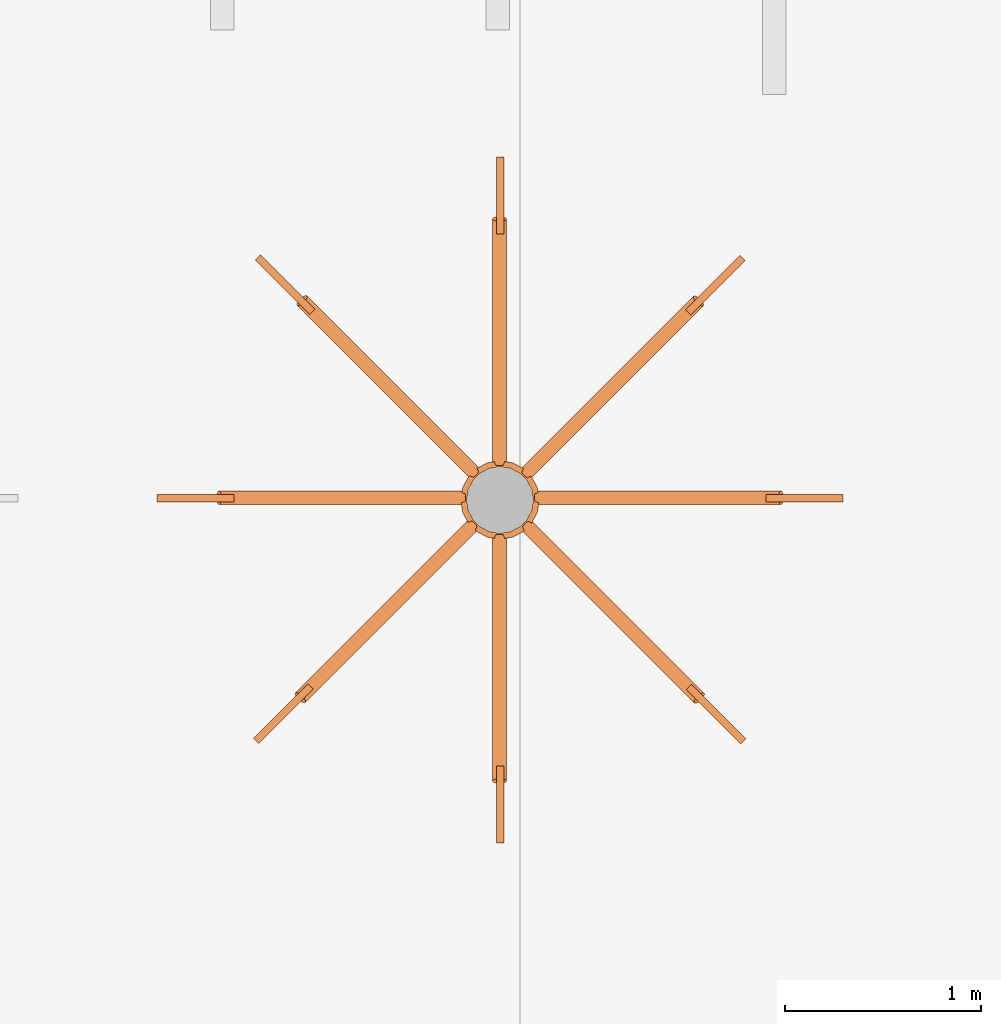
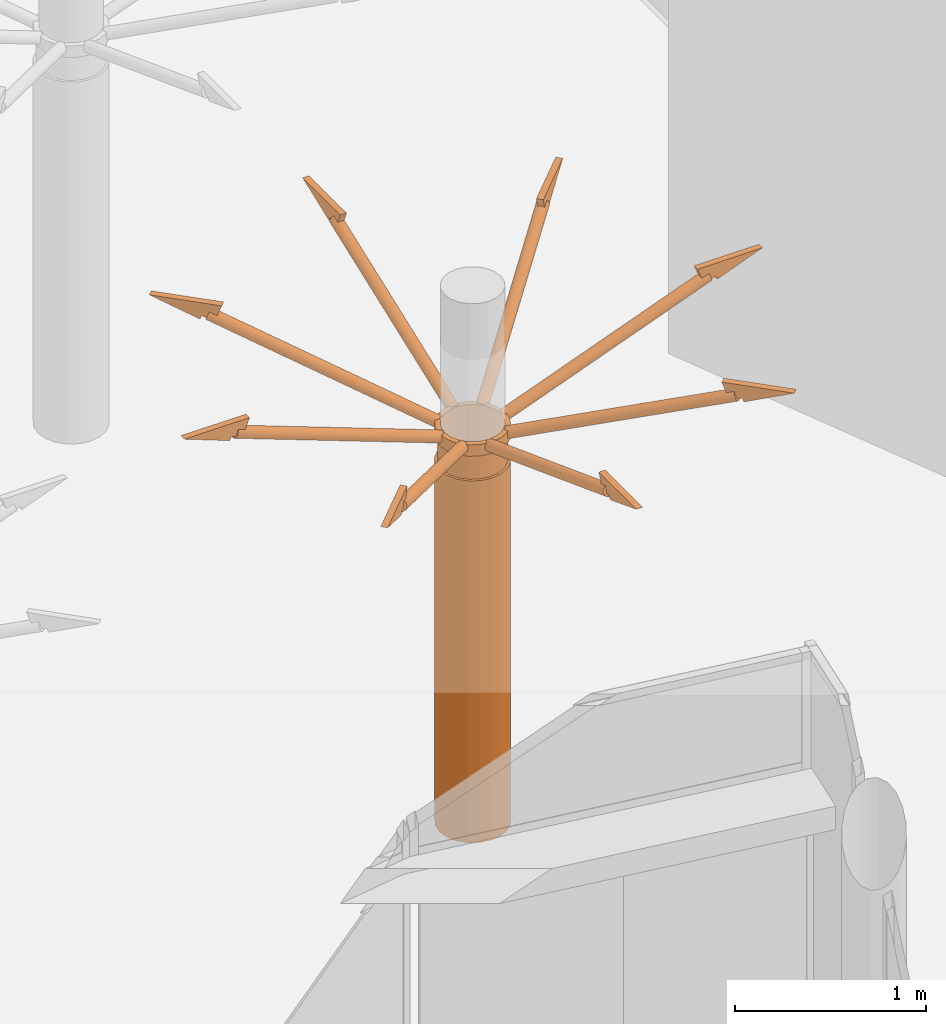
# One storey, part 62 of 65: 1 proxy.
"""IFC4 building model written with IfcOpenShell, lengths in metres."""

from ifc_helpers import new_model, entity, si_unit, converted_unit, derived_unit, direction, frame, origin, place, context, subcontext, project, spatial, indexed_curve, outline, extrude, source, transform, mapped, material, constituent, constituent_set, type_object, type_shapes, element, save


model = new_model("IFC4")

# Units and contexts
model_context = context("Model", 3, precision=1e-05, world=origin(), true_north=direction((6.12303176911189e-17, 1.0)))
body_context = subcontext(model_context, "Body", "Model", "MODEL_VIEW")
ifc_project = project(units=[si_unit("LENGTHUNIT", "METRE"), si_unit("AREAUNIT", "SQUARE_METRE"), si_unit("VOLUMEUNIT", "CUBIC_METRE"), converted_unit("PLANEANGLEUNIT", "DEGREE", entity("IfcRatioMeasure", 0.0174532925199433), si_unit("PLANEANGLEUNIT", "RADIAN"), dimensions=[0, 0, 0, 0, 0, 0, 0]), si_unit("MASSUNIT", "GRAM", prefix="KILO"), derived_unit("MASSDENSITYUNIT", [(si_unit("MASSUNIT", "GRAM", prefix="KILO"), 1), (si_unit("LENGTHUNIT", "METRE"), -3)]), derived_unit("MOMENTOFINERTIAUNIT", [(si_unit("LENGTHUNIT", "METRE"), 4)]), si_unit("TIMEUNIT", "SECOND"), si_unit("FREQUENCYUNIT", "HERTZ"), si_unit("THERMODYNAMICTEMPERATUREUNIT", "DEGREE_CELSIUS"), derived_unit("THERMALTRANSMITTANCEUNIT", [(si_unit("MASSUNIT", "GRAM", prefix="KILO"), 1), (si_unit("THERMODYNAMICTEMPERATUREUNIT", "KELVIN"), -1), (si_unit("TIMEUNIT", "SECOND"), -3)]), derived_unit("VOLUMETRICFLOWRATEUNIT", [(si_unit("LENGTHUNIT", "METRE"), 3), (si_unit("TIMEUNIT", "SECOND"), -1)]), si_unit("ELECTRICCURRENTUNIT", "AMPERE"), si_unit("ELECTRICVOLTAGEUNIT", "VOLT"), si_unit("POWERUNIT", "WATT"), si_unit("FORCEUNIT", "NEWTON", prefix="KILO"), si_unit("ILLUMINANCEUNIT", "LUX"), si_unit("LUMINOUSFLUXUNIT", "LUMEN"), si_unit("LUMINOUSINTENSITYUNIT", "CANDELA"), derived_unit("USERDEFINED", [(si_unit("MASSUNIT", "GRAM", prefix="KILO"), -1), (si_unit("LENGTHUNIT", "METRE"), -2), (si_unit("TIMEUNIT", "SECOND"), 3), (si_unit("LUMINOUSFLUXUNIT", "LUMEN"), 1)]), derived_unit("LINEARVELOCITYUNIT", [(si_unit("LENGTHUNIT", "METRE"), 1), (si_unit("TIMEUNIT", "SECOND"), -1)]), si_unit("PRESSUREUNIT", "PASCAL"), derived_unit("USERDEFINED", [(si_unit("LENGTHUNIT", "METRE"), -2), (si_unit("MASSUNIT", "GRAM", prefix="KILO"), 1), (si_unit("TIMEUNIT", "SECOND"), -2)]), derived_unit("LINEARFORCEUNIT", [(si_unit("MASSUNIT", "GRAM", prefix="KILO"), 1), (si_unit("LENGTHUNIT", "METRE"), 1), (si_unit("TIMEUNIT", "SECOND"), -2), (si_unit("LENGTHUNIT", "METRE"), -1)]), derived_unit("PLANARFORCEUNIT", [(si_unit("MASSUNIT", "GRAM", prefix="KILO"), 1), (si_unit("LENGTHUNIT", "METRE"), 1), (si_unit("TIMEUNIT", "SECOND"), -2), (si_unit("LENGTHUNIT", "METRE"), -2)])], contexts=[model_context])

# Site, building, storey
site_placement = place(None, origin())
site = spatial("IfcSite", under=ifc_project, at=site_placement, Name="Default", CompositionType="ELEMENT")
building_placement = place(site_placement, origin())
building = spatial("IfcBuilding", under=site, at=building_placement, Name="HOTEL CONSULAIRE BOULOGNE SUR MER", CompositionType="ELEMENT")
storey_placement = place(building_placement, origin())
storey = spatial("IfcBuildingStorey", under=building, at=storey_placement, Name="Niveau 0", CompositionType="ELEMENT", Elevation=1.31981936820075e-13)

# Proxy
ifc_material_1 = material(Name="Bronze", Category="Métal")
ifc_constituent_1 = constituent(ifc_material_1, Name="Bronze", Category="Matériaux")
ifc_material_2 = material(Name="Acier, carbone", Category="Métal")
ifc_constituent_2 = constituent(ifc_material_2, Name="Acier, carbone", Category="Matériaux")
ifc_constituent_set = constituent_set(constituents=[ifc_constituent_1, ifc_constituent_2], Name="MaterialConstituentSet")
building_element_proxy_type = type_object("IfcBuildingElementProxyType", Name="Modèles génériques 3:Modèles génériques 1", PredefinedType="NOTDEFINED", material=ifc_material_1)
shared_shape = source(origin(), body_context, "Body", "SweptSolid", [
    extrude(outline(indexed_curve([(-0.277248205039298, -0.059776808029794), (0.115160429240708, -0.059776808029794), (0.0851913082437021, 0.0182954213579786), (0.0431801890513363, 0.00216886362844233), (0.0317934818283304, 0.0318322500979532), (0.00544099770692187, 0.0219587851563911), (-0.00351820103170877, 0.0452982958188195), (-0.277248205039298, -0.059776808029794)], self_intersect=False)), frame((0.713250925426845, 0.701500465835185, 2.99602341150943), z_axis=(-0.70710678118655, 0.707106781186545, 0.0), x_axis=(0.707106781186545, 0.70710678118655, 0.0)), (0.0, 0.0, 1.0), 0.03781952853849),
    extrude(outline(indexed_curve([(0.035, -1.04985600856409e-15), (0.0332869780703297, 0.0108155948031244), (0.028315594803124, 0.0205724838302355), (0.0205724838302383, 0.0283155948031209), (0.0108155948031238, 0.0332869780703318), (1.1197790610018e-15, 0.0350000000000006), (-0.0108155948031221, 0.0332869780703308), (-0.0205724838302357, 0.028315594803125), (-0.0283155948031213, 0.0205724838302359), (-0.0332869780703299, 0.0108155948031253), (-0.0349999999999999, 1.43372394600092e-15), (-0.0332869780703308, -0.0108155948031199), (-0.028315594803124, -0.0205724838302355), (-0.0205724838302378, -0.0283155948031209), (-0.0108155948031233, -0.0332869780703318), (-6.12763902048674e-16, -0.0350000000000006), (0.0108155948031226, -0.0332869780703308), (0.0205724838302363, -0.0283155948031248), (0.0283155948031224, -0.0205724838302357), (0.0332869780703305, -0.0108155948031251), (0.035, -1.04985600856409e-15)], self_intersect=False)), frame((0.728885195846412, 0.739260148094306, 2.98010318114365), z_axis=(0.662156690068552, 0.662156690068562, -0.350851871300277), x_axis=(-0.248089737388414, -0.248089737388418, -0.936430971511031)), (0.0, 0.0, 1.0), 1.32737404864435),
    extrude(outline(indexed_curve([(-0.280255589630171, -0.0435504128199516), (0.0129489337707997, -0.0435504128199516), (0.0129489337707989, -0.0185504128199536), (0.0410894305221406, -0.018324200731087), (0.0410894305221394, 0.0134495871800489), (0.0860894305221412, 0.013449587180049), (0.0860894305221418, 0.0970762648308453), (-0.280255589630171, -0.0435504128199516)], self_intersect=False)), frame((1.7274101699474, 0.277248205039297, 2.99602341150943), z_axis=(1.0, 0.0, 0.0), x_axis=(0.0, 0.933580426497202, -0.358367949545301)), (0.0, 0.0, 1.0), 0.0378195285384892),
    extrude(outline(indexed_curve([(0.0349999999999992, 8.67182975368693e-17), (0.0332869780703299, 0.0108155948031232), (0.0283155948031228, 0.0205724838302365), (0.0205724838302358, 0.0283155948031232), (0.0108155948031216, 0.0332869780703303), (-5.93728164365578e-16, 0.035), (-0.0108155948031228, 0.0332869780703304), (-0.0205724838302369, 0.0283155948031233), (-0.0283155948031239, 0.0205724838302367), (-0.0332869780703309, 0.0108155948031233), (-0.0349999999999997, 1.83998484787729e-16), (-0.0332869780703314, -0.0108155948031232), (-0.0283155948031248, -0.0205724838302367), (-0.0205724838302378, -0.0283155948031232), (-0.0108155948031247, -0.0332869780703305), (-9.27317312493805e-16, -0.0349999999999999), (0.0108155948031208, -0.0332869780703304), (0.0205724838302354, -0.0283155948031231), (0.0283155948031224, -0.0205724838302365), (0.0332869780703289, -0.010815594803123), (0.0349999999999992, 8.67182975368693e-17)], self_intersect=False)), frame((1.74305519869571, 1.5579976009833, 2.51439151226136), z_axis=(0.0, -0.936430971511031, 0.350851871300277), x_axis=(0.0, -0.350851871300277, -0.936430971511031)), (0.0, 0.0, 1.0), 1.32737404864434),
    extrude(outline(indexed_curve([(-0.280255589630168, -0.0435504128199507), (0.0129489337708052, -0.0435504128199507), (0.0129489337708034, -0.0185504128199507), (0.0410894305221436, -0.0183242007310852), (0.0410894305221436, 0.0134495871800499), (0.0860894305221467, 0.0134495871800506), (0.0860894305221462, 0.097076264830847), (-0.280255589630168, -0.0435504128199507)], self_intersect=False)), frame((2.77607438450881, 0.699368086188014, 2.99602341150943), z_axis=(0.707106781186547, 0.707106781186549, 0.0), x_axis=(-0.6601410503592, 0.660141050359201, -0.358367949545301)), (0.0, 0.0, 1.0), 0.03781952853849),
    extrude(outline(indexed_curve([(0.035, -1.04985600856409e-15), (0.033286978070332, 0.0108155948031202), (0.028315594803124, 0.0205724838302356), (0.0205724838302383, 0.028315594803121), (0.0108155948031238, 0.0332869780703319), (1.186400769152e-15, 0.0350000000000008), (-0.0108155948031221, 0.033286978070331), (-0.0205724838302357, 0.028315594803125), (-0.0283155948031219, 0.0205724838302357), (-0.0332869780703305, 0.0108155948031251), (-0.0349999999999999, 1.43372394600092e-15), (-0.0332869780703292, -0.0108155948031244), (-0.0283155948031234, -0.0205724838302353), (-0.0205724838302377, -0.0283155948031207), (-0.0108155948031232, -0.0332869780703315), (-5.45084706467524e-16, -0.0350000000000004), (0.0108155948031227, -0.0332869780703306), (0.0205724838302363, -0.0283155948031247), (0.0283155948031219, -0.0205724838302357), (0.0332869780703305, -0.0108155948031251), (0.035, -1.04985600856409e-15)], self_intersect=False)), frame((1.88151050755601, 1.61605737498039, 2.51439151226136), z_axis=(0.662156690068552, -0.662156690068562, 0.350851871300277), x_axis=(0.248089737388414, -0.248089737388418, -0.936430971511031)), (0.0, 0.0, 1.0), 1.32737404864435),
    extrude(outline(indexed_curve([(-0.277248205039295, -0.0597768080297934), (0.115160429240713, -0.0597768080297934), (0.0851913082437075, 0.0182954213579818), (0.0431801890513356, 0.00216886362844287), (0.031793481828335, 0.0318322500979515), (0.00544099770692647, 0.02195878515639), (-0.00351820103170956, 0.0452982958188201), (-0.277248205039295, -0.0597768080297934)], self_intersect=False)), frame((2.77184292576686, 2.7963210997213, 2.99602341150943), z_axis=(0.707106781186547, -0.707106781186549, 0.0), x_axis=(-0.707106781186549, -0.707106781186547, 0.0)), (0.0, 0.0, 1.0), 0.0378195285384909),
    extrude(outline(indexed_curve([(0.035, 1.16429366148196e-15), (0.03328697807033, 0.0108155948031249), (0.0283155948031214, 0.0205724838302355), (0.0205724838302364, 0.0283155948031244), (0.0108155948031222, 0.0332869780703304), (-1.00451293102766e-15, 0.0350000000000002), (-0.0108155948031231, 0.0332869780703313), (-0.0205724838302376, 0.0283155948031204), (-0.0283155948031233, 0.0205724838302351), (-0.0332869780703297, 0.0108155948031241), (-0.0349999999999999, -1.26052501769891e-15), (-0.03328697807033, -0.0108155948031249), (-0.028315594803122, -0.0205724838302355), (-0.0205724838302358, -0.0283155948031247), (-0.0108155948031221, -0.0332869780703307), (1.10497423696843e-15, -0.0350000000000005), (0.0108155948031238, -0.0332869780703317), (0.0205724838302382, -0.0283155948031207), (0.0283155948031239, -0.0205724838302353), (0.0332869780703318, -0.0108155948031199), (0.035, 1.16429366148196e-15)], self_intersect=False)), frame((1.87727904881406, 1.87963181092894, 2.51439151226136), z_axis=(0.662156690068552, 0.662156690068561, 0.350851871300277), x_axis=(0.248089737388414, 0.248089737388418, -0.936430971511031)), (0.0, 0.0, 1.0), 1.32737404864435),
    extrude(outline(indexed_curve([(-0.277248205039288, -0.0597768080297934), (0.115160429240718, -0.0597768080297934), (0.0851913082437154, 0.0182954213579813), (0.0431801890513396, 0.00216886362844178), (0.0317934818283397, 0.0318322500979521), (0.0054409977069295, 0.0219587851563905), (-0.00351820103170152, 0.045298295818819), (-0.277248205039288, -0.0597768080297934)], self_intersect=False)), frame((1.72741016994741, 3.21418715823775, 2.99602341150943), z_axis=(1.0, 0.0, 0.0), x_axis=(0.0, -1.0, 0.0)), (0.0, 0.0, 1.0), 0.0378195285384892),
    extrude(outline(indexed_curve([(0.0349999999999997, -6.68832189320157e-17), (0.0332869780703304, 0.010815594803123), (0.0283155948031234, 0.0205724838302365), (0.0205724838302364, 0.0283155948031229), (0.0108155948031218, 0.0332869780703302), (6.68779268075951e-17, 0.0349999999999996), (-0.0108155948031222, 0.0332869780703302), (-0.0205724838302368, 0.0283155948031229), (-0.0283155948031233, 0.0205724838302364), (-0.0332869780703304, 0.0108155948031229), (-0.0349999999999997, -2.03833563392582e-16), (-0.0332869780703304, -0.0108155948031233), (-0.0283155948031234, -0.0205724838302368), (-0.0205724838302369, -0.0283155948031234), (-0.0108155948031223, -0.0332869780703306), (-6.68779268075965e-17, -0.0350000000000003), (0.0108155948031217, -0.0332869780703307), (0.0205724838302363, -0.0283155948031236), (0.0283155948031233, -0.0205724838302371), (0.0332869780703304, -0.0108155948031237), (0.0349999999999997, -6.68832189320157e-17)], self_intersect=False)), frame((1.74305519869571, 1.93343776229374, 2.51439151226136), z_axis=(0.0, 0.936430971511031, 0.350851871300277), x_axis=(0.0, 0.350851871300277, -0.936430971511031)), (0.0, 0.0, 1.0), 1.32737404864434),
    extrude(outline(indexed_curve([(-0.277248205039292, -0.059776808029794), (0.115160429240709, -0.059776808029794), (0.0851913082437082, 0.0182954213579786), (0.0431801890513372, 0.00216886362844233), (0.0317934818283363, 0.0318322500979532), (0.005440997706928, 0.0219587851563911), (-0.00351820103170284, 0.0452982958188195), (-0.277248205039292, -0.059776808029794)], self_intersect=False)), frame((0.694971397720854, 2.77170009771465, 2.99602341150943), z_axis=(0.707106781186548, 0.707106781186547, 0.0), x_axis=(0.707106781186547, -0.707106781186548, 0.0)), (0.0, 0.0, 1.0), 0.0378195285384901),
    extrude(outline(indexed_curve([(0.0349999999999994, -1.22011148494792e-15), (0.0332869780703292, 0.0108155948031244), (0.028315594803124, 0.0205724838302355), (0.0205724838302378, 0.0283155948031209), (0.0108155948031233, 0.0332869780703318), (5.94786615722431e-16, 0.0350000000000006), (-0.0108155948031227, 0.0332869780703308), (-0.0205724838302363, 0.0283155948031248), (-0.0283155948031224, 0.0205724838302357), (-0.0332869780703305, 0.0108155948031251), (-0.0350000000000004, 1.22011148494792e-15), (-0.0332869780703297, -0.0108155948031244), (-0.0283155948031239, -0.0205724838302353), (-0.0205724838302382, -0.0283155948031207), (-0.0108155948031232, -0.0332869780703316), (-1.10180177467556e-15, -0.0350000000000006), (0.0108155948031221, -0.0332869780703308), (0.0205724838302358, -0.0283155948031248), (0.0283155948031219, -0.0205724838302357), (0.03328697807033, -0.0108155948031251), (0.0349999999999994, -1.22011148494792e-15)], self_intersect=False)), frame((1.6162777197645, 1.88175325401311, 2.51439151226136), z_axis=(-0.662156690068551, 0.662156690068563, 0.350851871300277), x_axis=(-0.248089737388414, 0.248089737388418, -0.936430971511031)), (0.0, 0.0, 1.0), 1.32737404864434),
    extrude(outline(indexed_curve([(-0.280255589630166, -0.0435504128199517), (0.0129489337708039, -0.0435504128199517), (0.0129489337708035, -0.0185504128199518), (0.0410894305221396, -0.0183242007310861), (0.0410894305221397, 0.0134495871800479), (0.08608943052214, 0.0134495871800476), (0.0860894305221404, 0.0970762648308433), (-0.280255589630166, -0.0435504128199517)], self_intersect=False)), frame((3.21418736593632, 1.73554318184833, 2.99602341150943), z_axis=(0.0, 1.0, 0.0), x_axis=(-0.933580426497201, 0.0, -0.358367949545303)), (0.0, 0.0, 1.0), 0.0378195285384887),
    extrude(outline(indexed_curve([(0.0349999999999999, -4.16541532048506e-17), (0.0332869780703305, 0.0108155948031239), (0.0283155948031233, 0.0205724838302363), (0.0205724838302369, 0.0283155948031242), (0.0108155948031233, 0.0332869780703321), (-5.83659163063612e-18, 0.0350000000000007), (-0.0108155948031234, 0.0332869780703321), (-0.0205724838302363, 0.0283155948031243), (-0.0283155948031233, 0.0205724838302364), (-0.0332869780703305, 0.0108155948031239), (-0.0349999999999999, 4.16541532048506e-17), (-0.0332869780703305, -0.0108155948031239), (-0.0283155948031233, -0.0205724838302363), (-0.0205724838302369, -0.0283155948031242), (-0.0108155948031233, -0.0332869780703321), (5.83659163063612e-18, -0.0350000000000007), (0.0108155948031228, -0.0332869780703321), (0.0205724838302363, -0.0283155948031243), (0.0283155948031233, -0.0205724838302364), (0.0332869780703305, -0.0108155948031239), (0.0349999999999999, -4.16541532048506e-17)], self_intersect=False)), frame((1.93343796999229, 1.75771768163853, 2.51439151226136), z_axis=(0.936430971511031, 0.0, 0.350851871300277), x_axis=(0.350851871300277, 0.0, -0.936430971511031)), (0.0, 0.0, 1.0), 1.32737404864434),
    extrude(outline(indexed_curve([(-0.277248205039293, -0.059776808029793), (0.115160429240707, -0.059776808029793), (0.0851913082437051, 0.0182954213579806), (0.0431801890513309, 0.00216886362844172), (0.0317934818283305, 0.0318322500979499), (0.00544099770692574, 0.0219587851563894), (-0.00351820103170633, 0.0452982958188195), (-0.277248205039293, -0.059776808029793)], self_intersect=False)), frame((0.277248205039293, 1.73554318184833, 2.99602341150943), z_axis=(0.0, 1.0, 0.0), x_axis=(1.0, 0.0, 0.0)), (0.0, 0.0, 1.0), 0.0378195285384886),
    extrude(outline(indexed_curve([(0.0349999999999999, 4.16541532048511e-17), (0.0332869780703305, 0.0108155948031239), (0.0283155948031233, 0.0205724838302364), (0.0205724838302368, 0.0283155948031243), (0.0108155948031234, 0.0332869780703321), (5.33273364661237e-17, 0.0350000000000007), (-0.0108155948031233, 0.0332869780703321), (-0.0205724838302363, 0.0283155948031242), (-0.0283155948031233, 0.0205724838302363), (-0.0332869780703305, 0.0108155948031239), (-0.0349999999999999, -4.16541532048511e-17), (-0.0332869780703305, -0.0108155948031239), (-0.0283155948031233, -0.0205724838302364), (-0.0205724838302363, -0.0283155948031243), (-0.0108155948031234, -0.0332869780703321), (4.16541532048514e-17, -0.0350000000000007), (0.0108155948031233, -0.0332869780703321), (0.0205724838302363, -0.0283155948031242), (0.0283155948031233, -0.0205724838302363), (0.0332869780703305, -0.0108155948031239), (0.0349999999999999, 4.16541532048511e-17)], self_intersect=False)), frame((1.55799760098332, 1.75771768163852, 2.51439151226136), z_axis=(-0.936430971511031, 0.0, 0.350851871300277), x_axis=(-0.350851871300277, 0.0, -0.936430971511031)), (0.0, 0.0, 1.0), 1.32737404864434),
    extrude(outline(indexed_curve([(0.199999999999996, 0.0), (0.190211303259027, 0.0618033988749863), (0.161803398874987, 0.11755705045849), (0.117557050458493, 0.161803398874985), (0.0618033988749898, 0.190211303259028), (2.16573425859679e-15, 0.199999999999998), (-0.0618033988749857, 0.190211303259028), (-0.11755705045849, 0.16180339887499), (-0.161803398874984, 0.117557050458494), (-0.190211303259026, 0.0618033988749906), (-0.199999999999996, 4.33146851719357e-15), (-0.190211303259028, -0.0618033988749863), (-0.161803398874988, -0.11755705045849), (-0.117557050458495, -0.161803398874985), (-0.0618033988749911, -0.190211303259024), (-2.97788460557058e-15, -0.199999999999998), (0.0618033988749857, -0.190211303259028), (0.11755705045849, -0.161803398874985), (0.161803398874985, -0.117557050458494), (0.190211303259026, -0.0618033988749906), (0.199999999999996, 0.0)], self_intersect=False), holes=[indexed_curve([(-0.169999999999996, 0.0), (-0.161679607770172, 0.0525328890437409), (-0.137532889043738, 0.0999234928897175), (-0.0999234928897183, 0.137532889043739), (-0.0525328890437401, 0.161679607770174), (-5.41433564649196e-16, 0.169999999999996), (0.0525328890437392, 0.161679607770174), (0.0999234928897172, 0.137532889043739), (0.137532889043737, 0.0999234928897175), (0.161679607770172, 0.0525328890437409), (0.169999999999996, 0.0), (0.161679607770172, -0.0525328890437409), (0.137532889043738, -0.0999234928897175), (0.0999234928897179, -0.137532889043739), (0.0525328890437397, -0.161679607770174), (0.0, -0.169999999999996), (-0.0525328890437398, -0.161679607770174), (-0.0999234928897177, -0.137532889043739), (-0.137532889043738, -0.0999234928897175), (-0.161679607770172, -0.0525328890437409), (-0.169999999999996, 0.0)], self_intersect=False)]), frame((1.74571778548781, 1.74571768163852, 2.46815840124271)), (0.0, 0.0, 1.0), 0.073394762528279),
    extrude(outline(indexed_curve([(-0.184999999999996, 0.0), (-0.175945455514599, -0.0571681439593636), (-0.149668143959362, -0.108740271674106), (-0.108740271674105, -0.14966814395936), (-0.0571681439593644, -0.175945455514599), (-8.12150346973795e-16, -0.184999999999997), (0.0571681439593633, -0.175945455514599), (0.108740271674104, -0.149668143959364), (0.149668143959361, -0.108740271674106), (0.175945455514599, -0.0571681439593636), (0.184999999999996, 0.0), (0.175945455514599, 0.0571681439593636), (0.149668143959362, 0.108740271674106), (0.108740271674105, 0.14966814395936), (0.057168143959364, 0.175945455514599), (0.0, 0.184999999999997), (-0.0571681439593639, 0.175945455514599), (-0.108740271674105, 0.14966814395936), (-0.149668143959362, 0.108740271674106), (-0.175945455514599, 0.0571681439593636), (-0.184999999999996, 0.0)], self_intersect=False), holes=[indexed_curve([(0.169999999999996, 0.0), (0.161679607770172, -0.0525328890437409), (0.137532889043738, -0.0999234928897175), (0.0999234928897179, -0.137532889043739), (0.0525328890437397, -0.161679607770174), (0.0, -0.169999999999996), (-0.0525328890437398, -0.161679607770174), (-0.0999234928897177, -0.137532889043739), (-0.137532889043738, -0.0999234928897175), (-0.161679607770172, -0.0525328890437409), (-0.169999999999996, 0.0), (-0.161679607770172, 0.0525328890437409), (-0.137532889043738, 0.0999234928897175), (-0.0999234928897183, 0.137532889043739), (-0.0525328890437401, 0.161679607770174), (-5.41433564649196e-16, 0.169999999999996), (0.0525328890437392, 0.161679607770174), (0.0999234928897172, 0.137532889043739), (0.137532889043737, 0.0999234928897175), (0.161679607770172, 0.0525328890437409), (0.169999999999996, 0.0)], self_intersect=False)]), frame((1.74571778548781, 1.74571768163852, 2.31091744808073)), (0.0, 0.0, 1.0), 0.15724095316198),
    extrude(outline(indexed_curve([(0.199999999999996, 0.0), (0.190211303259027, 0.0618033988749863), (0.161803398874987, 0.11755705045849), (0.117557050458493, 0.161803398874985), (0.0618033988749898, 0.190211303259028), (2.16573425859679e-15, 0.199999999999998), (-0.0618033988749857, 0.190211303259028), (-0.11755705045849, 0.16180339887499), (-0.161803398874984, 0.117557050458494), (-0.190211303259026, 0.0618033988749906), (-0.199999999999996, 4.33146851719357e-15), (-0.190211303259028, -0.0618033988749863), (-0.161803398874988, -0.11755705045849), (-0.117557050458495, -0.161803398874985), (-0.0618033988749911, -0.190211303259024), (-2.97788460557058e-15, -0.199999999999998), (0.0618033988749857, -0.190211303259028), (0.11755705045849, -0.161803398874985), (0.161803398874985, -0.117557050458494), (0.190211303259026, -0.0618033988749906), (0.199999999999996, 0.0)], self_intersect=False), holes=[indexed_curve([(-0.169999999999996, 0.0), (-0.161679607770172, 0.0525328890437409), (-0.137532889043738, 0.0999234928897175), (-0.0999234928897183, 0.137532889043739), (-0.0525328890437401, 0.161679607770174), (-5.41433564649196e-16, 0.169999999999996), (0.0525328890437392, 0.161679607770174), (0.0999234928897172, 0.137532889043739), (0.137532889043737, 0.0999234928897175), (0.161679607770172, 0.0525328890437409), (0.169999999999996, 0.0), (0.161679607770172, -0.0525328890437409), (0.137532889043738, -0.0999234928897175), (0.0999234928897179, -0.137532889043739), (0.0525328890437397, -0.161679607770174), (0.0, -0.169999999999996), (-0.0525328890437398, -0.161679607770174), (-0.0999234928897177, -0.137532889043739), (-0.137532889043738, -0.0999234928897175), (-0.161679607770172, -0.0525328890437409), (-0.169999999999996, 0.0)], self_intersect=False)]), frame((1.74571778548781, 1.74571768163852, 0.0)), (0.0, 0.0, 1.0), 2.31091744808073),
])
type_shapes(building_element_proxy_type, [shared_shape])
proxy_placement = place(storey_placement, frame((5.42545898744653, -25.7616274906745, 0.0)))
element("IfcBuildingElementProxy", 1, at=proxy_placement, inside=storey, type_object=building_element_proxy_type, material=ifc_constituent_set, Name="Modèles génériques 3:Modèles génériques 1", ObjectType="Modèles génériques 3:Modèles génériques 1", PredefinedType="NOTDEFINED", context=body_context, shape_type="MappedRepresentation", body=[
    mapped(shared_shape, transform((0.0, 0.0, 0.0), scale=1.0)),
])

save(model, "model.ifc")
